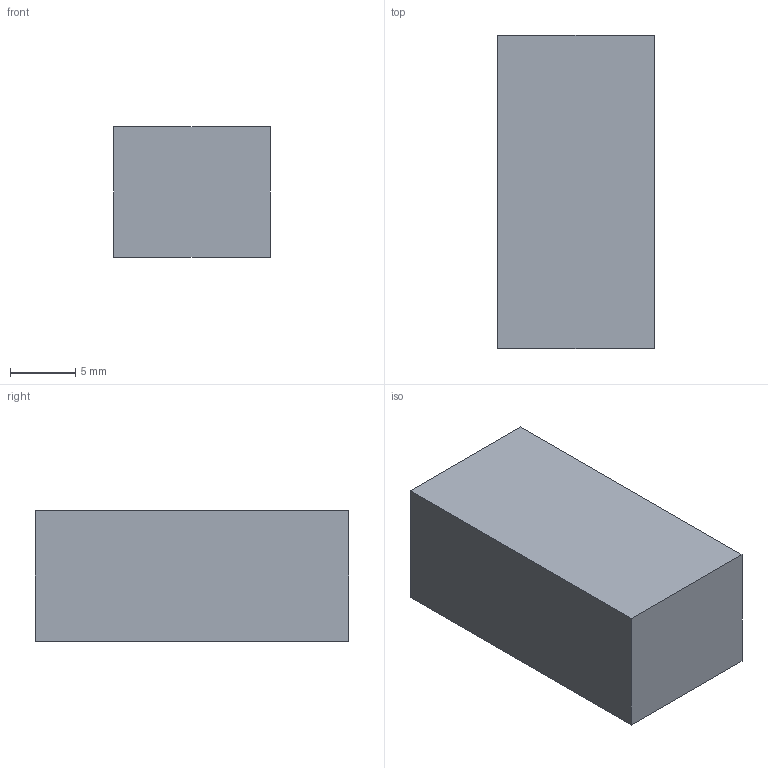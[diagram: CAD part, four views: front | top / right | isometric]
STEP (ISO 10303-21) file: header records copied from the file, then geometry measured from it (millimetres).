
FILE_DESCRIPTION(('Open CASCADE Model'),'2;1');
FILE_NAME('Open CASCADE Shape Model','2026-10-25T05:18:02',('Author'),( 'Open CASCADE'),'Open CASCADE STEP processor 7.9','Open CASCADE 7.9' ,'Unknown');
FILE_SCHEMA(('AUTOMOTIVE_DESIGN { 1 0 10303 214 1 1 1 1 }'));
Length unit declared in the file: millimetre
Products named in the file (1): Open CASCADE STEP translator 7.9 78
Bounding box: 12 x 24 x 10 mm (x, y, z)
Volume: 2880 mm3; surface area: 1296 mm2
Topology: 1 solids, 1 shells, 6 faces, 12 edges, 8 vertices
Faces by surface type: plane 6
Entity records: 322 total; most frequent: CARTESIAN_POINT 51, DIRECTION 50, LINE 36, VECTOR 36, ORIENTED_EDGE 24, PCURVE 24, DEFINITIONAL_REPRESENTATION 24, EDGE_CURVE 12
